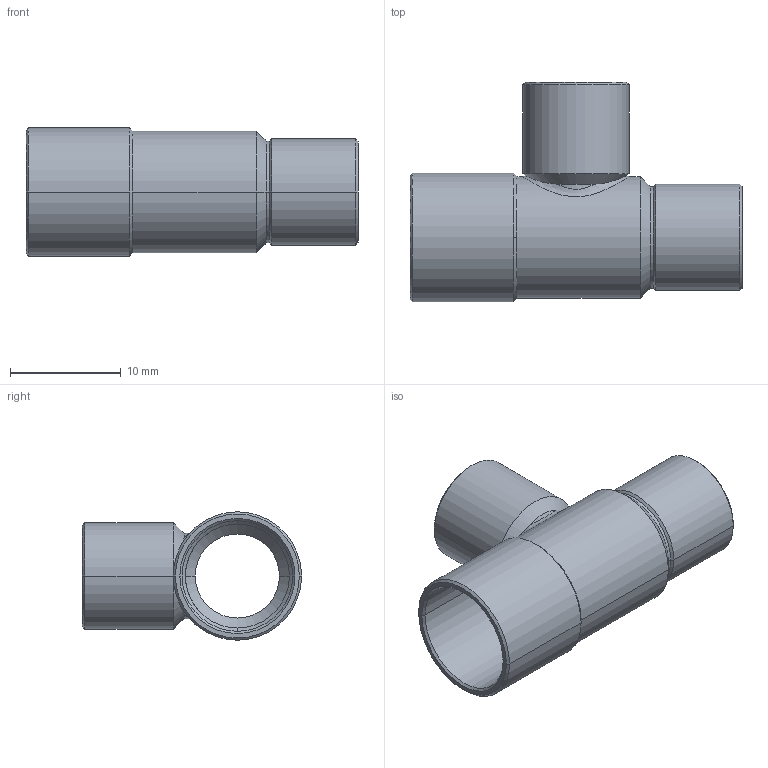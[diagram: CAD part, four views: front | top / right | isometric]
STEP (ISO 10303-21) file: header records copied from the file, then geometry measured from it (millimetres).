
FILE_DESCRIPTION((''),'2;1');
FILE_NAME('P:\Bouwmaten\z-maattekeningen 3D\5000\5130\51301088.stp','2005-10-26T11:52:21',('Kris'),(''),'Autodesk Inventor 8','Autodesk Inventor 8','');
FILE_SCHEMA(('AUTOMOTIVE_DESIGN { 1 0 10303 214 1 1 1 1 }'));
Length unit declared in the file: millimetre
Products named in the file (1): 51301088
Bounding box: 30 x 19.8 x 11.6 mm (x, y, z)
Volume: 933.4 mm3; surface area: 2397.1 mm2
Topology: 1 solids, 1 shells, 57 faces, 136 edges, 80 vertices
Faces by surface type: cone 28, cylinder 24, plane 3, bspline 2
Entity records: 2071 total; most frequent: CARTESIAN_POINT 721, DIRECTION 292, ORIENTED_EDGE 272, EDGE_CURVE 136, AXIS2_PLACEMENT_3D 121, VERTEX_POINT 80, CIRCLE 65, EDGE_LOOP 60
